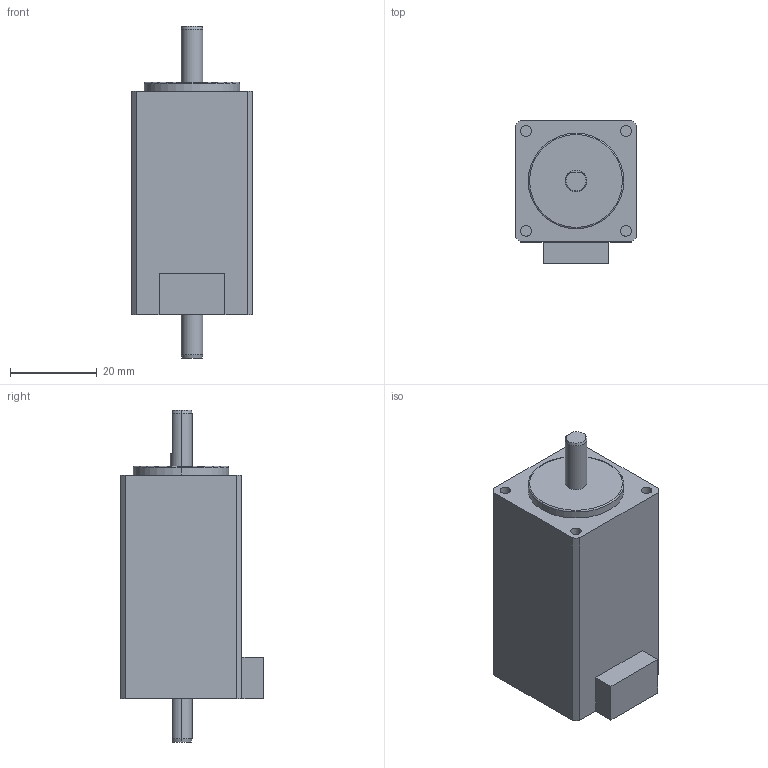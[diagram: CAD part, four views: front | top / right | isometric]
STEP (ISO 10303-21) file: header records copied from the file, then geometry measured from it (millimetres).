
FILE_DESCRIPTION (( 'STEP AP203' ), '1' );
FILE_NAME ('PMSB-U28DA3D_3D.STEP', '2016-11-15T02:45:59', ( 'SKJ00869' ), ( '' ), 'SwSTEP 2.0', 'SolidWorks 2014', '' );
FILE_SCHEMA (( 'CONFIG_CONTROL_DESIGN' ));
Length unit declared in the file: millimetre
Products named in the file (1): PMSB-U28DA3D_3D
Bounding box: 28 x 33 x 76.5 mm (x, y, z)
Volume: 42064.7 mm3; surface area: 8821.7 mm2
Topology: 2 solids, 2 shells, 48 faces, 108 edges, 70 vertices
Faces by surface type: plane 21, cylinder 19, cone 6, torus 2
Entity records: 1433 total; most frequent: DIRECTION 252, CARTESIAN_POINT 239, ORIENTED_EDGE 216, EDGE_CURVE 108, AXIS2_PLACEMENT_3D 99, VERTEX_POINT 70, EDGE_LOOP 54, VECTOR 54
